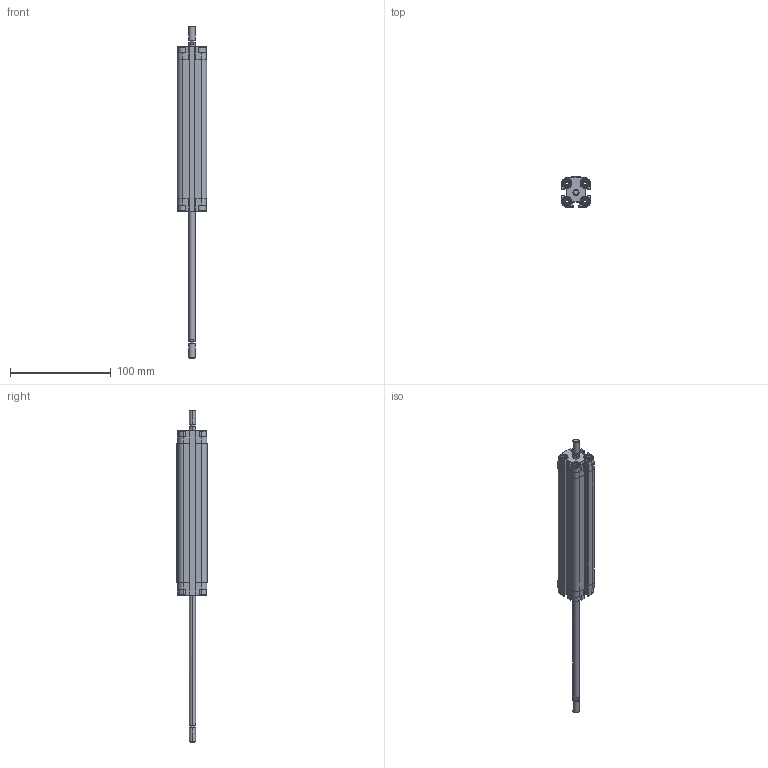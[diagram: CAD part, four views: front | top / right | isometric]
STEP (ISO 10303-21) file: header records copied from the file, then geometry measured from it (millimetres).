
FILE_DESCRIPTION (( 'STEP AP203' ), '1' );
FILE_NAME ('CDVU12-125M-P.STEP', '2020-07-21T14:57:49', ( '' ), ( '' ), 'SwSTEP 2.0', 'SolidWorks 2019', '' );
FILE_SCHEMA (( 'CONFIG_CONTROL_DESIGN' ));
Length unit declared in the file: millimetre
Products named in the file (1): CDVU12-125M-P
Bounding box: 29 x 30 x 329 mm (x, y, z)
Volume: 95073.5 mm3; surface area: 50391.5 mm2
Topology: 2 solids, 2 shells, 566 faces, 1504 edges, 978 vertices
Faces by surface type: plane 338, cylinder 164, cone 48, torus 16
Entity records: 17771 total; most frequent: CARTESIAN_POINT 3621, ORIENTED_EDGE 3000, DIRECTION 2850, EDGE_CURVE 1500, VERTEX_POINT 978, AXIS2_PLACEMENT_3D 975, LINE 900, VECTOR 900
